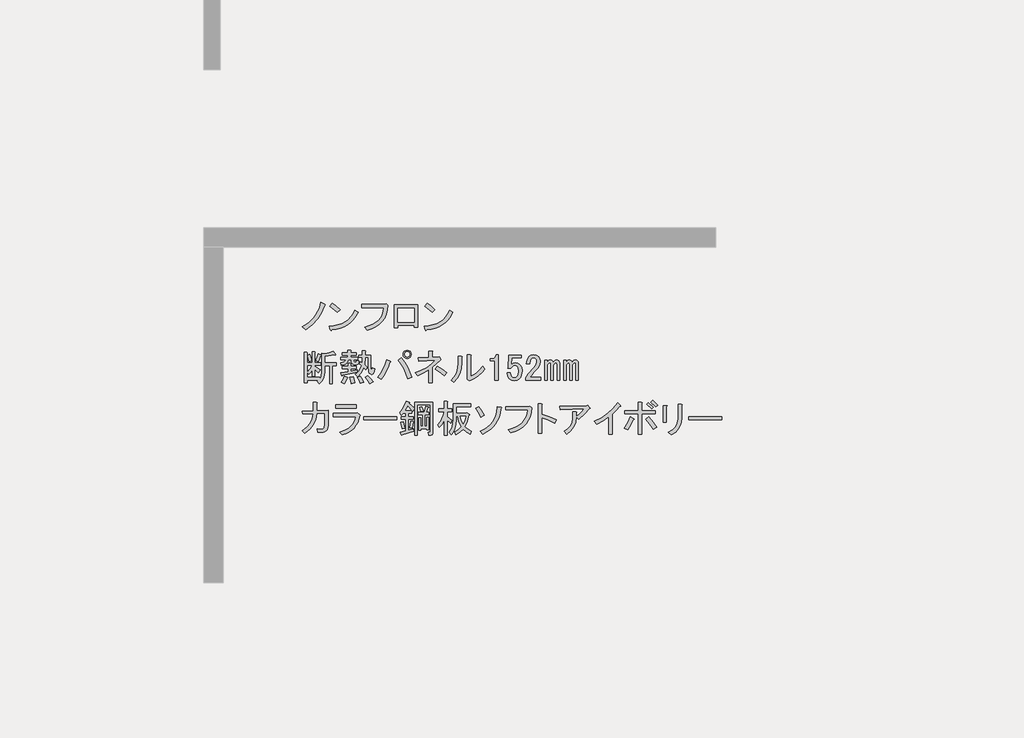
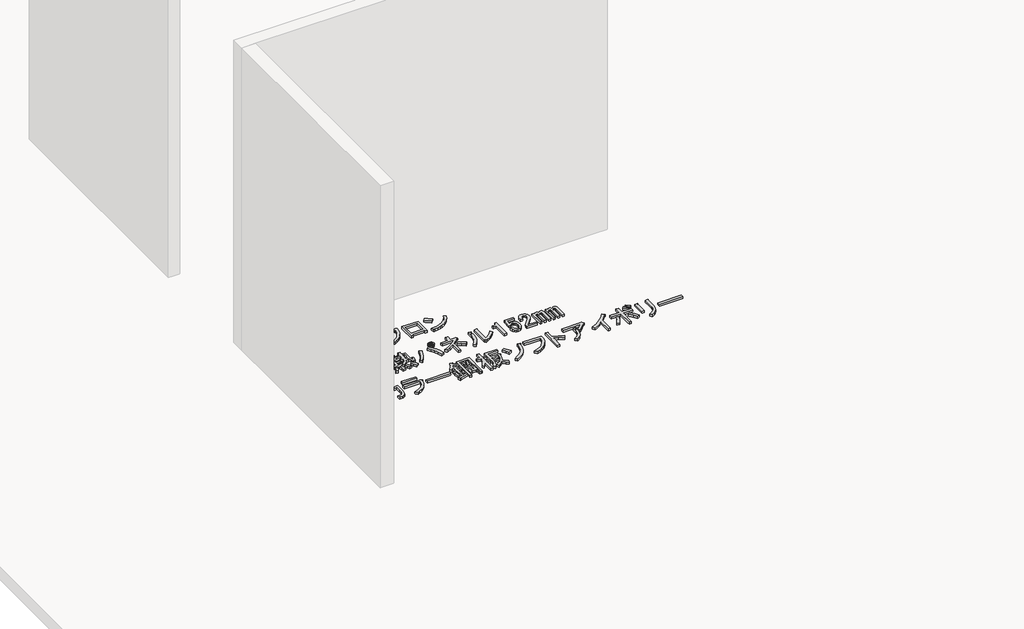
# One storey, part 13 of 117: 1 proxy.
"""IFC4 building model written with IfcOpenShell, lengths in millimetres."""

from ifc_helpers import new_model, si_unit, frame, origin, place, context, project, spatial, polyline, outline, extrude, element, save

model = new_model("IFC4")

# Units and contexts
model_context = context("Model", 3, world=origin())
ifc_project = project(units=[si_unit("LENGTHUNIT", "METRE", prefix="MILLI")], contexts=[model_context])

# Site, building, storey
site = spatial("IfcSite", under=ifc_project)
building = spatial("IfcBuilding", under=site)
storey = spatial("IfcBuildingStorey", under=building, Name="レベル 1", Elevation=500.0)

# Proxy
placement = place(None, origin())
element("IfcBuildingElementProxy", 1, Name="200㎜\u3000MS Pゴシック", ObjectType="200㎜\u3000MS Pゴシック", at=placement, inside=storey, context=model_context, shape_type="SweptSolid", body=[
    extrude(outline(polyline([(-23056.3293015, -12607.0496882), (-23081.9047498, -12666.8215225), (-23110.353844, -12712.7998566), (-23152.0217093, -12758.2034615), (-23201.1610538, -12795.560858), (-23228.7480543, -12773.7211493), (-23181.0455327, -12743.2605029), (-23141.3892195, -12704.7536481), (-23124.0036619, -12680.8305462), (-23108.6296565, -12652.7406577), (-23095.2672031, -12620.4839827), (-23083.9163019, -12584.0605212), (-23052.8809264, -12597.8540214), (-23049.7199159, -12602.4518548), (-23056.3293015, -12607.0496882)])), frame((0.0, 0.0, 500.0), z_axis=(0.0, 0.0, 1.0), x_axis=(1.0, 0.0, 0.0)), (0.0, 0.0, 1.0), 25.0),
    extrude(outline(polyline([(-22956.6022948, -12662.2236891), (-23015.2246708, -12615.0958967), (-22995.6838788, -12590.9572713), (-22968.3842429, -12610.7854279), (-22934.7625862, -12640.3839804), (-22956.6022948, -12662.2236891)])), frame((0.0, 0.0, 500.0), z_axis=(0.0, 0.0, 1.0), x_axis=(1.0, 0.0, 0.0)), (0.0, 0.0, 1.0), 25.0),
    extrude(outline(polyline([(-22794.5286672, -12662.2236891), (-22811.052131, -12691.965924), (-22830.1618761, -12717.9724192), (-22851.8579025, -12740.2431748), (-22876.1402102, -12758.7781907), (-22903.0087992, -12773.577467), (-22932.4636694, -12784.6410036), (-22964.504821, -12791.9688006), (-22999.1322539, -12795.560858), (-23004.8795456, -12803.6070664), (-23010.6268374, -12797.8597747), (-23019.8225042, -12767.9738575), (-22983.9917321, -12765.2977748), (-22951.2142088, -12758.9937141), (-22921.4899342, -12749.0616756), (-22894.8189084, -12735.5016591), (-22871.2011313, -12718.3136646), (-22850.636603, -12697.4976923), (-22833.1253234, -12673.053742), (-22818.6672926, -12644.9818138), (-22794.5286672, -12662.2236891)])), frame((0.0, 0.0, 500.0), z_axis=(0.0, 0.0, 1.0), x_axis=(1.0, 0.0, 0.0)), (0.0, 0.0, 1.0), 25.0),
    extrude(outline(polyline([(-22743.7685864, -12777.1695243), (-22709.985287, -12767.4889298), (-22680.4765359, -12755.1142922), (-22655.242333, -12740.0456116), (-22634.2826783, -12722.282888), (-22617.597572, -12701.8261214), (-22605.1870138, -12678.6753118), (-22597.0510039, -12652.8304591), (-22593.1895423, -12624.2915635), (-22765.6082951, -12624.2915635), (-22765.6082951, -12599.0034798), (-22590.8906256, -12599.0034798), (-22574.7982086, -12595.5551047), (-22562.1541668, -12607.0496882), (-22565.674383, -12643.5449909), (-22573.9361149, -12676.5919185), (-22586.9393625, -12706.1904711), (-22604.6841258, -12732.3406486), (-22627.1704048, -12755.042451), (-22654.3981995, -12774.2958784), (-22686.3675099, -12790.1009308), (-22723.078336, -12802.4576081), (-22743.7685864, -12777.1695243)])), frame((0.0, 0.0, 500.0), z_axis=(0.0, 0.0, 1.0), x_axis=(1.0, 0.0, 0.0)), (0.0, 0.0, 1.0), 25.0),
    extrude(outline(polyline([(-22329.044013, -12776.020066), (-22355.4815551, -12776.020066), (-22355.4815551, -12763.3760241), (-22483.0714321, -12763.3760241), (-22483.0714321, -12781.7673577), (-22509.5089742, -12781.7673577), (-22509.5089742, -12602.4518548), (-22329.044013, -12602.4518548), (-22329.044013, -12776.020066)]), holes=[polyline([(-22483.0714321, -12627.7399386), (-22483.0714321, -12738.0879404), (-22355.4815551, -12738.0879404), (-22355.4815551, -12627.7399386), (-22483.0714321, -12627.7399386)])]), frame((0.0, 0.0, 500.0), z_axis=(0.0, 0.0, 1.0), x_axis=(1.0, 0.0, 0.0)), (0.0, 0.0, 1.0), 25.0),
    extrude(outline(polyline([(-22052.9900951, -12662.2236891), (-22069.5135589, -12691.965924), (-22088.623304, -12717.9724192), (-22110.3193304, -12740.2431748), (-22134.6016381, -12758.7781907), (-22161.4702271, -12773.577467), (-22190.9250974, -12784.6410036), (-22222.9662489, -12791.9688006), (-22257.5936818, -12795.560858), (-22263.3409736, -12803.6070664), (-22269.0882653, -12797.8597747), (-22278.2839321, -12767.9738575), (-22242.4531601, -12765.2977748), (-22209.6756367, -12758.9937141), (-22179.9513622, -12749.0616756), (-22153.2803363, -12735.5016591), (-22129.6625593, -12718.3136646), (-22109.0980309, -12697.4976923), (-22091.5867514, -12673.053742), (-22077.1287205, -12644.9818138), (-22052.9900951, -12662.2236891)])), frame((0.0, 0.0, 500.0), z_axis=(0.0, 0.0, 1.0), x_axis=(1.0, 0.0, 0.0)), (0.0, 0.0, 1.0), 25.0),
    extrude(outline(polyline([(-22215.0637228, -12662.2236891), (-22273.6860987, -12615.0958967), (-22254.1453067, -12590.9572713), (-22226.8456709, -12610.7854279), (-22193.2240141, -12640.3839804), (-22215.0637228, -12662.2236891)])), frame((0.0, 0.0, 500.0), z_axis=(0.0, 0.0, 1.0), x_axis=(1.0, 0.0, 0.0)), (0.0, 0.0, 1.0), 25.0),
    extrude(outline(polyline([(-23122.9978859, -13039.2345221), (-23105.7560106, -12986.3594379), (-23085.0657603, -12992.1067296), (-23083.3415727, -12995.2677401), (-23087.364677, -12997.8540214), (-23104.6065523, -13046.1312722), (-23122.9978859, -13039.2345221)])), frame((0.0, 0.0, 500.0), z_axis=(0.0, 0.0, 1.0), x_axis=(1.0, 0.0, 0.0)), (0.0, 0.0, 1.0), 25.0),
    extrude(outline(polyline([(-22968.9704667, -12990.9572713), (-22970.6946542, -12995.5551047), (-22978.1661335, -12993.256188), (-23055.1798431, -13005.9002299), (-23055.1798431, -13055.326939), (-22963.2231749, -13055.326939), (-22963.2231749, -13077.1666477), (-22994.2585505, -13077.1666477), (-22994.2585505, -13217.4005666), (-23017.2477175, -13217.4005666), (-23017.2477175, -13077.1666477), (-23055.1798431, -13077.1666477), (-23055.1798431, -13126.5933568), (-23057.7661244, -13154.3958807), (-23065.5249683, -13179.1810764), (-23078.4563747, -13200.948944), (-23096.5603438, -13219.6994833), (-23113.8022191, -13200.1586914), (-23103.4570939, -13190.9630245), (-23193.1148454, -13190.9630245), (-23193.1148454, -13212.8027332), (-23216.1040124, -13212.8027332), (-23216.1040124, -12973.715396), (-23194.2643037, -12973.715396), (-23189.3791057, -12976.0143127), (-23193.1148454, -12980.6121461), (-23193.1148454, -13056.4763974), (-23150.5848863, -13056.4763974), (-23150.5848863, -12969.1175626), (-23132.1935527, -12969.1175626), (-23127.3083547, -12971.4164793), (-23131.0440943, -12976.0143127), (-23131.0440943, -13056.4763974), (-23087.364677, -13056.4763974), (-23087.364677, -13074.867731), (-23131.0440943, -13074.867731), (-23131.0440943, -13084.0633978), (-23090.813052, -13110.5009399), (-23104.6065523, -13132.3406486), (-23131.0440943, -13105.9031065), (-23131.0440943, -13158.7781907), (-23150.5848863, -13158.7781907), (-23150.5848863, -13110.5009399), (-23163.8036574, -13130.3290965), (-23178.1718868, -13146.1341488), (-23190.8159287, -13127.7428152), (-23168.97622, -13103.6041898), (-23151.7343447, -13074.867731), (-23193.1148454, -13074.867731), (-23193.1148454, -13169.1233159), (-23095.4108854, -13169.1233159), (-23095.4108854, -13182.9168161), (-23082.479479, -13158.7781907), (-23078.1690102, -13125.4438985), (-23078.1690102, -12980.6121461), (-23056.3293015, -12986.3594379), (-23020.1213634, -12978.8879586), (-22989.660717, -12965.6691875), (-22968.9704667, -12990.9572713)])), frame((0.0, 0.0, 500.0), z_axis=(0.0, 0.0, 1.0), x_axis=(1.0, 0.0, 0.0)), (0.0, 0.0, 1.0), 25.0),
    extrude(outline(polyline([(-23177.0224284, -13047.2807305), (-23189.6664703, -12996.7045631), (-23170.1256783, -12989.8078129), (-23162.3668344, -13013.9464383), (-23157.4816364, -13040.3839804), (-23177.0224284, -13047.2807305)])), frame((0.0, 0.0, 500.0), z_axis=(0.0, 0.0, 1.0), x_axis=(1.0, 0.0, 0.0)), (0.0, 0.0, 1.0), 25.0),
    extrude(outline(polyline([(-22878.1632569, -13167.9738575), (-22874.7148818, -13172.8590555), (-22880.4621736, -13176.020066), (-22890.2325696, -13201.5955143), (-22901.1524239, -13220.8489417), (-22924.141591, -13209.3543582), (-22911.4975491, -13185.790462), (-22901.1524239, -13158.7781907), (-22878.1632569, -13167.9738575)])), frame((0.0, 0.0, 500.0), z_axis=(0.0, 0.0, 1.0), x_axis=(1.0, 0.0, 0.0)), (0.0, 0.0, 1.0), 25.0),
    extrude(outline(polyline([(-22833.3343812, -13163.3760241), (-22823.2766206, -13190.67566), (-22818.3914226, -13212.8027332), (-22847.1278814, -13218.550025), (-22849.7141627, -13196.9976809), (-22857.4730066, -13166.8243992), (-22833.3343812, -13163.3760241)])), frame((0.0, 0.0, 500.0), z_axis=(0.0, 0.0, 1.0), x_axis=(1.0, 0.0, 0.0)), (0.0, 0.0, 1.0), 25.0),
    extrude(outline(polyline([(-22718.388546, -13157.6287323), (-22693.6751914, -13178.8937119), (-22674.7091286, -13203.6070664), (-22701.1466707, -13218.550025), (-22720.4000981, -13188.9514724), (-22739.0787963, -13169.1233159), (-22718.388546, -13157.6287323)])), frame((0.0, 0.0, 500.0), z_axis=(0.0, 0.0, 1.0), x_axis=(1.0, 0.0, 0.0)), (0.0, 0.0, 1.0), 25.0),
    extrude(outline(polyline([(-22777.0109219, -13216.2511083), (-22785.344495, -13191.5377537), (-22798.8506306, -13170.2727742), (-22778.1603803, -13162.2265657), (-22761.2058696, -13183.7789098), (-22749.4239215, -13207.0554415), (-22777.0109219, -13216.2511083)])), frame((0.0, 0.0, 500.0), z_axis=(0.0, 0.0, 1.0), x_axis=(1.0, 0.0, 0.0)), (0.0, 0.0, 1.0), 25.0),
    extrude(outline(polyline([(-22916.0953825, -13153.0308989), (-22918.1069346, -13157.9160969), (-22921.8426743, -13156.479274), (-22927.589966, -13132.3406486), (-22872.4159651, -13124.2944401), (-22872.4159651, -13101.3052731), (-22916.0953825, -13101.3052731), (-22916.0953825, -13082.9139395), (-22872.4159651, -13082.9139395), (-22872.4159651, -13059.9247724), (-22854.0246315, -13059.9247724), (-22849.1394335, -13062.2236891), (-22852.8751732, -13066.8215225), (-22852.8751732, -13082.9139395), (-22808.0462974, -13082.9139395), (-22808.0462974, -13101.3052731), (-22852.8751732, -13101.3052731), (-22852.8751732, -13120.8460651), (-22802.2990057, -13111.6503983), (-22802.2990057, -13127.7428152), (-22916.0953825, -13153.0308989)])), frame((0.0, 0.0, 500.0), z_axis=(0.0, 0.0, 1.0), x_axis=(1.0, 0.0, 0.0)), (0.0, 0.0, 1.0), 25.0),
    extrude(outline(polyline([(-22845.978423, -13031.1883136), (-22871.2665068, -13031.1883136), (-22875.8643402, -13048.6457123), (-22886.2094654, -13061.9363245), (-22902.3018823, -13071.0601502), (-22924.141591, -13076.0171893), (-22928.7394244, -13056.4763974), (-22903.4513406, -13047.8554597), (-22895.9798614, -13040.5276627), (-22891.9567571, -13031.1883136), (-22927.589966, -13031.1883136), (-22927.589966, -13012.79698), (-22873.5654235, -13012.79698), (-22873.5654235, -12995.5551047), (-22917.2448409, -12995.5551047), (-22917.2448409, -12977.1637711), (-22873.5654235, -12977.1637711), (-22873.5654235, -12958.7724374), (-22851.7257148, -12958.7724374), (-22846.8405168, -12961.0713541), (-22850.5762564, -12965.6691875), (-22850.5762564, -12977.1637711), (-22808.0462974, -12977.1637711), (-22808.0462974, -12995.5551047), (-22850.5762564, -12995.5551047), (-22850.5762564, -13012.79698), (-22797.7011723, -13012.79698), (-22797.7011723, -13031.1883136), (-22826.4376311, -13031.1883136), (-22826.4376311, -13043.8323555), (-22825.0008081, -13049.0049181), (-22820.6903393, -13050.7291056), (-22810.3452141, -13050.7291056), (-22806.6094745, -13047.5680951), (-22806.8968391, -13038.0850637), (-22787.3560471, -13040.3839804), (-22790.229693, -13061.9363245), (-22795.5459378, -13067.3244106), (-22803.448464, -13069.1204392), (-22827.5870894, -13069.1204392), (-22841.3805896, -13064.2352412), (-22845.978423, -13049.5796472), (-22845.978423, -13031.1883136)])), frame((0.0, 0.0, 500.0), z_axis=(0.0, 0.0, 1.0), x_axis=(1.0, 0.0, 0.0)), (0.0, 0.0, 1.0), 25.0),
    extrude(outline(polyline([(-22714.9401709, -13013.9464383), (-22736.7798796, -13013.9464383), (-22741.377713, -13071.4193559), (-22721.836921, -13089.8106896), (-22732.1820462, -13111.6503983), (-22748.2744631, -13095.5579813), (-22767.5278905, -13133.2027424), (-22797.7011723, -13165.6749408), (-22814.9430475, -13144.9846905), (-22799.8564067, -13133.0590601), (-22786.7813179, -13117.9724192), (-22775.7177813, -13099.7247679), (-22766.6657967, -13078.316106), (-22783.907672, -13063.3731475), (-22775.8614636, -13046.1312722), (-22762.0679633, -13056.4763974), (-22759.7690466, -13013.9464383), (-22787.3560471, -13013.9464383), (-22787.3560471, -12995.5551047), (-22759.7690466, -12995.5551047), (-22759.7690466, -12961.0713541), (-22737.9293379, -12961.0713541), (-22733.04414, -12963.3702708), (-22736.7798796, -12967.9681043), (-22736.7798796, -12995.5551047), (-22695.3993789, -12995.5551047), (-22695.3993789, -13092.1096063), (-22691.9510039, -13116.2482317), (-22688.7181523, -13118.2597838), (-22685.9163475, -13115.0987733), (-22681.6058787, -13093.2590646), (-22662.0650867, -13100.1558147), (-22666.591079, -13126.9525626), (-22674.421764, -13142.9731384), (-22685.5571418, -13148.2175421), (-22699.9972123, -13142.6857738), (-22706.5347567, -13135.3579768), (-22711.2044313, -13123.719711), (-22714.9401709, -13087.5117729), (-22714.9401709, -13013.9464383)])), frame((0.0, 0.0, 500.0), z_axis=(0.0, 0.0, 1.0), x_axis=(1.0, 0.0, 0.0)), (0.0, 0.0, 1.0), 25.0),
    extrude(outline(polyline([(-22456.3120417, -13016.245355), (-22429.6589762, -13052.9561812), (-22407.1726971, -13090.6727833), (-22388.8532047, -13129.3951616), (-22374.7004987, -13169.1233159), (-22405.7358742, -13179.468441), (-22421.1817208, -13136.3637528), (-22438.7828018, -13097.856898), (-22458.5391173, -13063.9478766), (-22480.4506671, -13034.6366887), (-22456.3120417, -13016.245355)])), frame((0.0, 0.0, 500.0), z_axis=(0.0, 0.0, 1.0), x_axis=(1.0, 0.0, 0.0)), (0.0, 0.0, 1.0), 25.0),
    extrude(outline(polyline([(-22543.6708765, -13042.6828971), (-22539.6477722, -13048.1428243), (-22545.9697932, -13053.0280223), (-22557.8954236, -13088.4457078), (-22572.9820644, -13122.282888), (-22591.2297158, -13154.539563), (-22612.6383776, -13185.2157328), (-22639.0759197, -13167.9738575), (-22615.8712292, -13136.5074351), (-22596.8333252, -13103.0294606), (-22581.9622078, -13067.539934), (-22571.2578769, -13030.0388553), (-22543.6708765, -13042.6828971)])), frame((0.0, 0.0, 500.0), z_axis=(0.0, 0.0, 1.0), x_axis=(1.0, 0.0, 0.0)), (0.0, 0.0, 1.0), 25.0),
    extrude(outline(polyline([(-22410.3337076, -13021.9926468), (-22422.9777495, -13019.6937301), (-22433.3228747, -13012.79698), (-22440.2196248, -13002.4518548), (-22442.5185415, -12989.8078129), (-22440.2196248, -12977.1637711), (-22433.3228747, -12966.8186459), (-22422.9777495, -12959.9218958), (-22410.3337076, -12957.6229791), (-22397.6896657, -12959.9218958), (-22387.3445406, -12966.8186459), (-22380.4477905, -12977.1637711), (-22378.1488738, -12989.8078129), (-22380.4477905, -13002.4518548), (-22387.3445406, -13012.79698), (-22397.6896657, -13019.6937301), (-22410.3337076, -13021.9926468)]), holes=[polyline([(-22410.3337076, -13010.4980633), (-22402.0001346, -13009.0612403), (-22395.390749, -13004.7507715), (-22391.0802802, -12998.141386), (-22389.6434573, -12989.8078129), (-22391.0802802, -12981.4742399), (-22395.390749, -12974.8648544), (-22402.0001346, -12970.5543855), (-22410.3337076, -12969.1175626), (-22418.6672807, -12970.5543855), (-22425.2766662, -12974.8648544), (-22429.587135, -12981.4742399), (-22431.023958, -12989.8078129), (-22429.587135, -12998.141386), (-22425.2766662, -13004.7507715), (-22418.6672807, -13009.0612403), (-22410.3337076, -13010.4980633)])]), frame((0.0, 0.0, 500.0), z_axis=(0.0, 0.0, 1.0), x_axis=(1.0, 0.0, 0.0)), (0.0, 0.0, 1.0), 25.0),
    extrude(outline(polyline([(-22120.6702029, -13155.3298156), (-22157.7402348, -13126.0186277), (-22190.7871624, -13104.7536481), (-22173.5452871, -13082.9139395), (-22134.7510677, -13106.1904711), (-22101.1294109, -13132.3406486), (-22120.6702029, -13155.3298156)])), frame((0.0, 0.0, 500.0), z_axis=(0.0, 0.0, 1.0), x_axis=(1.0, 0.0, 0.0)), (0.0, 0.0, 1.0), 25.0),
    extrude(outline(polyline([(-22166.648537, -13011.6475216), (-22159.7517869, -13009.3486049), (-22147.107745, -13026.5904802), (-22145.9582866, -13032.6251366), (-22151.7055784, -13034.6366887), (-22214.9257878, -13090.9601479), (-22214.9257878, -13211.6532749), (-22241.3633299, -13211.6532749), (-22241.3633299, -13109.3514816), (-22281.5943722, -13133.4901069), (-22326.4232479, -13155.3298156), (-22345.9640399, -13134.6395653), (-22300.4167527, -13115.1706145), (-22259.1799343, -13092.3969709), (-22222.2535848, -13066.3186345), (-22189.637704, -13036.9356054), (-22319.5264978, -13042.6828971), (-22322.9748729, -13017.3948134), (-22241.3633299, -13015.0958967), (-22241.3633299, -12963.3702708), (-22218.3741628, -12963.3702708), (-22212.3395065, -12966.8186459), (-22214.9257878, -12972.5659377), (-22214.9257878, -13013.9464383), (-22166.648537, -13011.6475216)])), frame((0.0, 0.0, 500.0), z_axis=(0.0, 0.0, 1.0), x_axis=(1.0, 0.0, 0.0)), (0.0, 0.0, 1.0), 25.0),
    extrude(outline(polyline([(-22067.703162, -13193.2619413), (-22042.5587606, -13164.0225944), (-22024.5984738, -13131.4785548), (-22013.8223018, -13095.6298225), (-22010.2302444, -13056.4763974), (-22010.2302444, -13004.7507715), (-21986.091619, -13004.7507715), (-21980.3443273, -13008.1991466), (-21983.7927023, -13013.9464383), (-21983.7927023, -13055.326939), (-21987.6002831, -13101.0897496), (-21999.0230255, -13141.82368), (-22018.0609295, -13177.5287301), (-22044.713995, -13208.2048998), (-22067.703162, -13193.2619413)])), frame((0.0, 0.0, 500.0), z_axis=(0.0, 0.0, 1.0), x_axis=(1.0, 0.0, 0.0)), (0.0, 0.0, 1.0), 25.0),
    extrude(outline(polyline([(-21913.6757429, -13162.2265657), (-21888.8905471, -13150.0135708), (-21865.1111275, -13132.9153778), (-21842.3374839, -13110.9319868), (-21820.5696163, -13084.0633978), (-21804.4771994, -13105.9031065), (-21827.753731, -13133.7056304), (-21853.9039086, -13157.3413678), (-21882.9277319, -13176.8103186), (-21914.8252012, -13192.1124829), (-21924.020868, -13196.7103163), (-21942.4122017, -13182.9168161), (-21940.113285, -13177.1695243), (-21940.113285, -12992.1067296), (-21915.9746596, -12992.1067296), (-21910.2273678, -12995.5551047), (-21913.6757429, -13001.3023965), (-21913.6757429, -13162.2265657)])), frame((0.0, 0.0, 500.0), z_axis=(0.0, 0.0, 1.0), x_axis=(1.0, 0.0, 0.0)), (0.0, 0.0, 1.0), 25.0),
    extrude(outline(polyline([(-21725.1645731, -13015.0958967), (-21717.1183647, -13004.1760423), (-21713.6699896, -12992.1067296), (-21699.8764894, -12992.1067296), (-21699.8764894, -13190.9630245), (-21726.3140315, -13190.9630245), (-21726.3140315, -13038.0850637), (-21760.797782, -13038.0850637), (-21760.797782, -13024.2915635), (-21750.4526569, -13024.2915635), (-21736.0844275, -13021.9926468), (-21725.1645731, -13015.0958967)])), frame((0.0, 0.0, 500.0), z_axis=(0.0, 0.0, 1.0), x_axis=(1.0, 0.0, 0.0)), (0.0, 0.0, 1.0), 25.0),
    extrude(outline(polyline([(-21615.9660297, -12995.5551047), (-21517.1126114, -12995.5551047), (-21517.1126114, -13017.3948134), (-21594.126321, -13017.3948134), (-21594.126321, -13020.8431884), (-21597.5746961, -13063.3731475), (-21598.7241544, -13070.2698976), (-21583.2064667, -13059.9247724), (-21566.5393205, -13056.4763974), (-21545.5617056, -13060.212137), (-21528.6071949, -13071.4193559), (-21516.5378822, -13091.2475125), (-21512.514778, -13118.5471484), (-21517.6873406, -13153.0308989), (-21524.1530438, -13166.8243992), (-21533.2050283, -13178.3189827), (-21551.3089974, -13190.3882954), (-21573.4360707, -13194.4113996), (-21594.4136856, -13190.67566), (-21611.3681963, -13179.468441), (-21623.437509, -13160.7897428), (-21629.7595299, -13134.6395653), (-21603.3219878, -13134.6395653), (-21599.2988836, -13153.3182635), (-21591.8274043, -13165.6749408), (-21584.0685604, -13170.8475034), (-21574.585529, -13172.5716909), (-21562.2288517, -13170.5601388), (-21552.7458203, -13164.5254825), (-21543.2627889, -13147.5709718), (-21540.1017785, -13121.9955234), (-21542.6880597, -13097.856898), (-21550.4469036, -13082.9139395), (-21557.9183829, -13077.7413769), (-21566.5393205, -13076.0171893), (-21579.470727, -13078.6034706), (-21590.6779459, -13086.3623145), (-21599.8736128, -13096.7074397), (-21622.8627798, -13096.7074397), (-21621.7133214, -13088.6612312), (-21615.9660297, -13000.1529381), (-21615.9660297, -12995.5551047)])), frame((0.0, 0.0, 500.0), z_axis=(0.0, 0.0, 1.0), x_axis=(1.0, 0.0, 0.0)), (0.0, 0.0, 1.0), 25.0),
    extrude(outline(polyline([(-21478.0310274, -13062.2236891), (-21473.433194, -13030.900949), (-21459.6396938, -13008.1991466), (-21443.2599123, -12996.9919276), (-21424.0064849, -12993.256188), (-21401.3046824, -12996.9919276), (-21383.7754426, -13008.1991466), (-21372.5682236, -13024.8662927), (-21368.832484, -13044.9818138), (-21373.1429528, -13070.8446268), (-21386.0743593, -13093.2590646), (-21419.4086515, -13131.1911902), (-21437.7999851, -13151.8814406), (-21451.5934853, -13170.2727742), (-21365.3841089, -13170.2727742), (-21365.3841089, -13192.1124829), (-21482.6288608, -13192.1124829), (-21482.6288608, -13172.5716909), (-21476.5942045, -13158.7781907), (-21463.0880689, -13140.3868571), (-21415.9602764, -13088.6612312), (-21401.3046824, -13067.3962517), (-21396.4194844, -13044.9818138), (-21398.7184011, -13032.337772), (-21405.6151513, -13021.9926468), (-21413.3739951, -13016.8200842), (-21422.8570265, -13015.0958967), (-21431.4779642, -13016.8200842), (-21438.9494435, -13021.9926468), (-21448.4324749, -13038.3724283), (-21451.5934853, -13062.2236891), (-21478.0310274, -13062.2236891)])), frame((0.0, 0.0, 500.0), z_axis=(0.0, 0.0, 1.0), x_axis=(1.0, 0.0, 0.0)), (0.0, 0.0, 1.0), 25.0),
    extrude(outline(polyline([(-21094.1119379, -13032.337772), (-21085.7783648, -13033.7745949), (-21079.1689793, -13038.0850637), (-21073.9964167, -13046.7060014), (-21072.2722292, -13058.7753141), (-21072.2722292, -13193.2619413), (-21091.8130212, -13193.2619413), (-21091.8130212, -13069.1204392), (-21094.3993024, -13059.6374078), (-21102.1581463, -13056.4763974), (-21112.5032715, -13061.0742308), (-21118.5379278, -13069.6951684), (-21120.54948, -13079.4655644), (-21120.54948, -13193.2619413), (-21140.0902719, -13193.2619413), (-21140.0902719, -13069.1204392), (-21142.6765532, -13059.6374078), (-21150.4353971, -13056.4763974), (-21160.7805223, -13061.0742308), (-21166.8151786, -13069.6951684), (-21168.8267307, -13079.4655644), (-21168.8267307, -13193.2619413), (-21188.3675227, -13193.2619413), (-21188.3675227, -13035.786147), (-21168.8267307, -13035.786147), (-21168.8267307, -13053.0280223), (-21156.757418, -13037.5103346), (-21143.538647, -13032.337772), (-21134.3429802, -13033.7745949), (-21127.4462301, -13038.0850637), (-21120.54948, -13051.878564), (-21107.6180735, -13037.22297), (-21094.1119379, -13032.337772)])), frame((0.0, 0.0, 500.0), z_axis=(0.0, 0.0, 1.0), x_axis=(1.0, 0.0, 0.0)), (0.0, 0.0, 1.0), 25.0),
    extrude(outline(polyline([(-21315.9573998, -13193.2619413), (-21335.4981918, -13193.2619413), (-21335.4981918, -13035.786147), (-21315.9573998, -13035.786147), (-21315.9573998, -13053.0280223), (-21303.8880871, -13037.5103346), (-21290.6693161, -13032.337772), (-21281.4736492, -13033.7745949), (-21274.5768991, -13038.0850637), (-21267.680149, -13051.878564), (-21254.7487426, -13037.22297), (-21241.2426069, -13032.337772), (-21232.9090339, -13033.7745949), (-21226.2996483, -13038.0850637), (-21221.1270858, -13046.7060014), (-21219.4028982, -13058.7753141), (-21219.4028982, -13193.2619413), (-21238.9436902, -13193.2619413), (-21238.9436902, -13069.1204392), (-21241.5299715, -13059.6374078), (-21249.2888154, -13056.4763974), (-21259.6339406, -13061.0742308), (-21265.6685969, -13069.6951684), (-21267.680149, -13079.4655644), (-21267.680149, -13193.2619413), (-21287.220941, -13193.2619413), (-21287.220941, -13069.1204392), (-21289.8072223, -13059.6374078), (-21297.5660662, -13056.4763974), (-21307.9111913, -13061.0742308), (-21313.9458477, -13069.6951684), (-21315.9573998, -13079.4655644), (-21315.9573998, -13193.2619413)])), frame((0.0, 0.0, 500.0), z_axis=(0.0, 0.0, 1.0), x_axis=(1.0, 0.0, 0.0)), (0.0, 0.0, 1.0), 25.0),
    extrude(outline(polyline([(-23052.8809264, -13450.7291056), (-23118.4000525, -13453.0280223), (-23126.6617844, -13499.293721), (-23144.55023, -13540.3868571), (-23172.0653893, -13576.3074306), (-23209.2072623, -13607.0554415), (-23228.7480543, -13587.5146495), (-23193.7614157, -13559.2810787), (-23168.1141262, -13527.4554506), (-23151.8061858, -13492.0377651), (-23144.8375946, -13453.0280223), (-23226.4491376, -13455.326939), (-23228.7480543, -13432.337772), (-23143.6881362, -13430.0388553), (-23143.6881362, -13365.6691875), (-23119.5495108, -13365.6691875), (-23112.6527607, -13369.1175626), (-23117.2505941, -13374.8648544), (-23117.2505941, -13430.0388553), (-23026.4433843, -13426.5904802), (-23026.4433843, -13497.856898), (-23029.0296656, -13545.8467842), (-23036.7885095, -13577.1695243), (-23043.397895, -13587.2272849), (-23052.8809264, -13594.4113996), (-23065.2376037, -13598.7218684), (-23080.4679269, -13600.1586914), (-23108.0549273, -13600.1586914), (-23111.5033024, -13571.4222326), (-23081.6173852, -13573.7211493), (-23067.5365204, -13570.8475034), (-23059.7776765, -13562.2265657), (-23054.6051139, -13536.938482), (-23052.8809264, -13497.856898), (-23052.8809264, -13450.7291056)])), frame((0.0, 0.0, 500.0), z_axis=(0.0, 0.0, 1.0), x_axis=(1.0, 0.0, 0.0)), (0.0, 0.0, 1.0), 25.0),
    extrude(outline(polyline([(-22938.0270479, -13596.7103163), (-22888.3848153, -13578.3908238), (-22868.1435721, -13566.2676303), (-22850.9555777, -13552.1688052), (-22836.820832, -13536.0943485), (-22825.7393351, -13518.0442603), (-22817.7110869, -13498.0185406), (-22812.7360875, -13476.0171893), (-22987.453757, -13476.0171893), (-22987.453757, -13450.7291056), (-22811.5866291, -13450.7291056), (-22801.241504, -13447.2807305), (-22780.5512536, -13459.9247724), (-22777.6776078, -13465.3846996), (-22782.8501703, -13470.2698976), (-22788.9746281, -13497.7491363), (-22798.1523347, -13522.7139349), (-22810.3832899, -13545.1642933), (-22825.667494, -13565.1002116), (-22844.0049467, -13582.5216898), (-22865.3956483, -13597.4287278), (-22889.8395985, -13609.8213256), (-22917.3367975, -13619.6994833), (-22938.0270479, -13596.7103163)])), frame((0.0, 0.0, 500.0), z_axis=(0.0, 0.0, 1.0), x_axis=(1.0, 0.0, 0.0)), (0.0, 0.0, 1.0), 25.0),
    extrude(outline(polyline([(-22808.1382541, -13410.4980633), (-22966.7635067, -13410.4980633), (-22966.7635067, -13385.2099795), (-22808.1382541, -13385.2099795), (-22808.1382541, -13410.4980633)])), frame((0.0, 0.0, 500.0), z_axis=(0.0, 0.0, 1.0), x_axis=(1.0, 0.0, 0.0)), (0.0, 0.0, 1.0), 25.0),
    extrude(outline(polyline([(-22749.1020731, -13501.3052731), (-22749.1020731, -13476.0171893), (-22492.7728606, -13476.0171893), (-22492.7728606, -13501.3052731), (-22749.1020731, -13501.3052731)])), frame((0.0, 0.0, 500.0), z_axis=(0.0, 0.0, 1.0), x_axis=(1.0, 0.0, 0.0)), (0.0, 0.0, 1.0), 25.0),
    extrude(outline(polyline([(-22297.6408108, -13397.8540214), (-22290.4566961, -13413.0843446), (-22284.9967689, -13433.4872303), (-22302.2386442, -13439.2345221), (-22313.7332277, -13402.4518548), (-22297.6408108, -13397.8540214)])), frame((0.0, 0.0, 500.0), z_axis=(0.0, 0.0, 1.0), x_axis=(1.0, 0.0, 0.0)), (0.0, 0.0, 1.0), 25.0),
    extrude(outline(polyline([(-22244.7657266, -13399.0034798), (-22242.1794453, -13402.4518548), (-22248.2141016, -13405.9002299), (-22260.8581435, -13443.8323555), (-22240.1678932, -13443.8323555), (-22240.1678932, -13462.2236891), (-22271.2032687, -13462.2236891), (-22271.2032687, -13550.7319822), (-22256.2603101, -13550.7319822), (-22256.2603101, -13482.9139395), (-22240.1678932, -13482.9139395), (-22240.1678932, -13577.1695243), (-22256.2603101, -13577.1695243), (-22256.2603101, -13569.1233159), (-22302.2386442, -13569.1233159), (-22302.2386442, -13581.7673577), (-22318.3310611, -13581.7673577), (-22318.3310611, -13485.2128562), (-22302.2386442, -13485.2128562), (-22302.2386442, -13550.7319822), (-22287.2956856, -13550.7319822), (-22287.2956856, -13462.2236891), (-22322.9288945, -13462.2236891), (-22322.9288945, -13443.8323555), (-22276.9505604, -13443.8323555), (-22266.6054353, -13394.4056463), (-22244.7657266, -13399.0034798)])), frame((0.0, 0.0, 500.0), z_axis=(0.0, 0.0, 1.0), x_axis=(1.0, 0.0, 0.0)), (0.0, 0.0, 1.0), 25.0),
    extrude(outline(polyline([(-22350.515895, -13365.6691875), (-22210.281976, -13365.6691875), (-22210.281976, -13605.9059831), (-22214.0177157, -13617.1132021), (-22225.2249346, -13620.8489417), (-22241.3173515, -13620.8489417), (-22245.9151849, -13599.009233), (-22234.4206014, -13599.009233), (-22230.9722264, -13597.8597747), (-22229.822768, -13594.4113996), (-22229.822768, -13384.0605212), (-22330.975103, -13384.0605212), (-22330.975103, -13623.1478584), (-22350.515895, -13623.1478584), (-22350.515895, -13365.6691875)])), frame((0.0, 0.0, 500.0), z_axis=(0.0, 0.0, 1.0), x_axis=(1.0, 0.0, 0.0)), (0.0, 0.0, 1.0), 25.0),
    extrude(outline(polyline([(-22362.0104785, -13513.949315), (-22359.4241972, -13517.1103254), (-22363.1599368, -13519.6966067), (-22371.2061453, -13566.8243992), (-22389.5974789, -13564.5254825), (-22383.8501872, -13510.5009399), (-22362.0104785, -13513.949315)])), frame((0.0, 0.0, 500.0), z_axis=(0.0, 0.0, 1.0), x_axis=(1.0, 0.0, 0.0)), (0.0, 0.0, 1.0), 25.0),
    extrude(outline(polyline([(-22439.0241881, -13515.0987733), (-22427.5296046, -13566.8243992), (-22448.2198549, -13572.5716909), (-22459.7144384, -13520.8460651), (-22439.0241881, -13515.0987733)])), frame((0.0, 0.0, 500.0), z_axis=(0.0, 0.0, 1.0), x_axis=(1.0, 0.0, 0.0)), (0.0, 0.0, 1.0), 25.0),
    extrude(outline(polyline([(-22365.4588536, -13434.6366887), (-22406.8393542, -13390.9572713), (-22428.6790629, -13430.0388553), (-22373.505062, -13430.0388553), (-22373.505062, -13448.4301889), (-22399.9426041, -13448.4301889), (-22399.9426041, -13477.1666477), (-22362.0104785, -13477.1666477), (-22362.0104785, -13495.5579813), (-22399.9426041, -13495.5579813), (-22399.9426041, -13582.9168161), (-22360.8610201, -13572.5716909), (-22358.5621034, -13592.1124829), (-22450.5187716, -13617.4005666), (-22452.8176883, -13623.1478584), (-22457.4155217, -13619.6994833), (-22464.3122718, -13596.7103163), (-22419.4833961, -13587.5146495), (-22419.4833961, -13495.5579813), (-22457.4155217, -13495.5579813), (-22457.4155217, -13477.1666477), (-22419.4833961, -13477.1666477), (-22419.4833961, -13448.4301889), (-22441.3231048, -13448.4301889), (-22456.2660634, -13466.8215225), (-22468.9101052, -13446.1312722), (-22440.7483756, -13408.4865112), (-22416.035021, -13357.6229791), (-22394.1953124, -13363.3702708), (-22390.7469373, -13367.1060105), (-22396.4942291, -13369.1175626), (-22397.6436874, -13372.5659377), (-22352.8148117, -13410.4980633), (-22365.4588536, -13434.6366887)])), frame((0.0, 0.0, 500.0), z_axis=(0.0, 0.0, 1.0), x_axis=(1.0, 0.0, 0.0)), (0.0, 0.0, 1.0), 25.0),
    extrude(outline(polyline([(-22121.7736829, -13623.1478584), (-22121.7736829, -13503.6041898), (-22139.5902874, -13537.8005758), (-22158.5563502, -13559.927649), (-22170.0509337, -13539.2373987), (-22152.8090584, -13516.5355963), (-22139.0155582, -13492.1096063), (-22128.670433, -13465.9594288), (-22121.7736829, -13438.0850637), (-22163.1541836, -13438.0850637), (-22163.1541836, -13416.245355), (-22121.7736829, -13416.245355), (-22121.7736829, -13356.4735207), (-22099.9339742, -13356.4735207), (-22095.0487762, -13358.7724374), (-22098.7845159, -13363.3702708), (-22098.7845159, -13416.245355), (-22060.8523903, -13416.245355), (-22060.8523903, -13438.0850637), (-22098.7845159, -13438.0850637), (-22098.7845159, -13478.316106), (-22060.8523903, -13504.7536481), (-22071.1975154, -13527.7428152), (-22098.7845159, -13504.7536481), (-22098.7845159, -13623.1478584), (-22121.7736829, -13623.1478584)])), frame((0.0, 0.0, 500.0), z_axis=(0.0, 0.0, 1.0), x_axis=(1.0, 0.0, 0.0)), (0.0, 0.0, 1.0), 25.0),
    extrude(outline(polyline([(-22039.0126816, -13594.4113996), (-22010.2762228, -13577.1695243), (-21988.4365141, -13555.3298156), (-22006.2531185, -13513.3745858), (-22016.0235145, -13472.5688143), (-22028.6675564, -13472.5688143), (-22028.6675564, -13496.7074397), (-22031.1101554, -13538.4471461), (-22038.4379524, -13572.8590555), (-22050.6509474, -13599.9431679), (-22067.7491404, -13619.6994833), (-22081.5426406, -13596.7103163), (-22068.4675518, -13579.3247587), (-22059.1282027, -13557.0540032), (-22053.5245933, -13529.8980496), (-22051.6567234, -13497.856898), (-22051.6567234, -13377.1637711), (-21914.8711796, -13377.1637711), (-21914.8711796, -13399.0034798), (-22028.6675564, -13399.0034798), (-22028.6675564, -13450.7291056), (-21949.3549301, -13450.7291056), (-21943.6076384, -13444.9818138), (-21924.0668464, -13458.7753141), (-21922.6300234, -13462.5110537), (-21927.5152214, -13466.8215225), (-21939.8718987, -13513.3745858), (-21958.5505969, -13554.1803573), (-21939.5845341, -13572.5716909), (-21907.9744294, -13590.9630245), (-21917.1700963, -13615.1016499), (-21945.0444613, -13599.009233), (-21973.4935555, -13573.7211493), (-21997.9195455, -13598.1471392), (-22029.8170148, -13618.550025), (-22039.0126816, -13594.4113996)]), holes=[polyline([(-21994.1838058, -13472.5688143), (-21986.1375974, -13505.6157419), (-21973.4935555, -13533.4901069), (-21960.8495136, -13507.3399294), (-21952.8033052, -13472.5688143), (-21994.1838058, -13472.5688143)])]), frame((0.0, 0.0, 500.0), z_axis=(0.0, 0.0, 1.0), x_axis=(1.0, 0.0, 0.0)), (0.0, 0.0, 1.0), 25.0),
    extrude(outline(polyline([(-21741.3029684, -13517.39769), (-21729.1618145, -13496.5637574), (-21719.1758951, -13469.6951684), (-21711.3452101, -13436.7919231), (-21705.6697595, -13397.8540214), (-21676.9333007, -13402.4518548), (-21672.0481027, -13406.1875945), (-21678.082759, -13412.79698), (-21683.3271628, -13448.1428243), (-21692.1636238, -13480.6150228), (-21704.5921423, -13510.2135753), (-21720.6127181, -13536.938482), (-21736.705135, -13555.9045448), (-21758.5448437, -13574.8706076), (-21819.4661363, -13612.8027332), (-21840.1563867, -13592.1124829), (-21809.4083758, -13576.2355894), (-21782.6834691, -13558.4908261), (-21759.9816666, -13538.878193), (-21741.3029684, -13517.39769)])), frame((0.0, 0.0, 500.0), z_axis=(0.0, 0.0, 1.0), x_axis=(1.0, 0.0, 0.0)), (0.0, 0.0, 1.0), 25.0),
    extrude(outline(polyline([(-21835.5585533, -13479.4655644), (-21855.961439, -13440.0966158), (-21875.7895956, -13411.6475216), (-21850.5015118, -13397.8540214), (-21830.3859907, -13426.5904802), (-21809.1210112, -13464.5226058), (-21835.5585533, -13479.4655644)])), frame((0.0, 0.0, 500.0), z_axis=(0.0, 0.0, 1.0), x_axis=(1.0, 0.0, 0.0)), (0.0, 0.0, 1.0), 25.0),
    extrude(outline(polyline([(-21619.6902747, -13577.1695243), (-21585.9069754, -13567.4889298), (-21556.3982242, -13555.1142922), (-21531.1640214, -13540.0456116), (-21510.2043667, -13522.282888), (-21493.5192603, -13501.8261214), (-21481.1087022, -13478.6753118), (-21472.9726923, -13452.8304591), (-21469.1112306, -13424.2915635), (-21641.5299834, -13424.2915635), (-21641.5299834, -13399.0034798), (-21466.8123139, -13399.0034798), (-21450.719897, -13395.5551047), (-21438.0758551, -13407.0496882), (-21441.5960713, -13443.5449909), (-21449.8578032, -13476.5919185), (-21462.8610508, -13506.1904711), (-21480.6058141, -13532.3406486), (-21503.0920932, -13555.042451), (-21530.3198879, -13574.2958784), (-21562.2891983, -13590.1009308), (-21599.0000244, -13602.4576081), (-21619.6902747, -13577.1695243)])), frame((0.0, 0.0, 500.0), z_axis=(0.0, 0.0, 1.0), x_axis=(1.0, 0.0, 0.0)), (0.0, 0.0, 1.0), 25.0),
    extrude(outline(polyline([(-21357.8436622, -13457.6258557), (-21301.2328383, -13476.5919185), (-21244.0472853, -13501.3052731), (-21257.8407855, -13527.7428152), (-21313.302151, -13501.8800023), (-21357.8436622, -13486.3623145), (-21357.8436622, -13605.9059831), (-21384.2812042, -13605.9059831), (-21384.2812042, -13376.0143127), (-21361.2920372, -13376.0143127), (-21353.5331933, -13378.8879586), (-21357.8436622, -13385.2099795), (-21357.8436622, -13457.6258557)])), frame((0.0, 0.0, 500.0), z_axis=(0.0, 0.0, 1.0), x_axis=(1.0, 0.0, 0.0)), (0.0, 0.0, 1.0), 25.0),
    extrude(outline(polyline([(-21089.5600828, -13478.316106), (-21093.3676636, -13519.5529244), (-21107.0893227, -13555.9045448), (-21130.72506, -13587.3709672), (-21164.2748757, -13613.9521916), (-21183.8156677, -13592.1124829), (-21154.1452739, -13571.8532794), (-21132.9521356, -13547.8583363), (-21120.2362526, -13520.1276536), (-21115.9976249, -13488.6612312), (-21115.9976249, -13439.2345221), (-21091.8589995, -13439.2345221), (-21086.1117077, -13441.8208034), (-21089.5600828, -13447.2807305), (-21089.5600828, -13477.1666477), (-21053.0647801, -13446.4186368), (-21026.3398734, -13416.245355), (-21213.7015848, -13423.1421052), (-21216.0005015, -13396.7045631), (-21006.7990814, -13390.9572713), (-20998.752873, -13388.6583546), (-20981.5109977, -13409.3486049), (-20981.2236331, -13412.5096154), (-20987.2582895, -13412.79698), (-21025.1904151, -13456.1890328), (-21070.0192908, -13496.7074397), (-21089.5600828, -13478.316106)])), frame((0.0, 0.0, 500.0), z_axis=(0.0, 0.0, 1.0), x_axis=(1.0, 0.0, 0.0)), (0.0, 0.0, 1.0), 25.0),
    extrude(outline(polyline([(-20947.7169221, -13511.6503983), (-20891.0342572, -13483.7760332), (-20841.6793892, -13450.7291056), (-20799.6523182, -13412.5096154), (-20764.9530442, -13369.1175626), (-20743.1133355, -13387.5088962), (-20740.5270542, -13393.5435526), (-20751.1595439, -13397.8540214), (-20776.1602631, -13426.8778448), (-20807.4830032, -13456.4763974), (-20807.4830032, -13612.8027332), (-20833.9205453, -13612.8027332), (-20833.9205453, -13478.316106), (-20877.5999627, -13507.9146586), (-20928.1761302, -13534.6395653), (-20947.7169221, -13511.6503983)])), frame((0.0, 0.0, 500.0), z_axis=(0.0, 0.0, 1.0), x_axis=(1.0, 0.0, 0.0)), (0.0, 0.0, 1.0), 25.0),
    extrude(outline(polyline([(-20523.6587469, -13478.316106), (-20487.4508088, -13520.2713359), (-20461.5879959, -13558.7781907), (-20486.8760796, -13576.020066), (-20513.6009863, -13534.9269299), (-20545.4984556, -13496.7074397), (-20523.6587469, -13478.316106)])), frame((0.0, 0.0, 500.0), z_axis=(0.0, 0.0, 1.0), x_axis=(1.0, 0.0, 0.0)), (0.0, 0.0, 1.0), 25.0),
    extrude(outline(polyline([(-20578.8327478, -13428.8893969), (-20473.0825794, -13428.8893969), (-20473.0825794, -13454.1774807), (-20578.8327478, -13454.1774807), (-20578.8327478, -13613.9521916), (-20605.2702899, -13613.9521916), (-20605.2702899, -13454.1774807), (-20708.7215416, -13454.1774807), (-20708.7215416, -13428.8893969), (-20605.2702899, -13428.8893969), (-20605.2702899, -13364.5197292), (-20581.1316645, -13364.5197292), (-20574.2349144, -13367.9681043), (-20578.8327478, -13373.715396), (-20578.8327478, -13428.8893969)])), frame((0.0, 0.0, 500.0), z_axis=(0.0, 0.0, 1.0), x_axis=(1.0, 0.0, 0.0)), (0.0, 0.0, 1.0), 25.0),
    extrude(outline(polyline([(-20639.7540405, -13492.1096063), (-20637.4551238, -13496.9948043), (-20644.3518739, -13500.1558147), (-20663.8926659, -13538.9500341), (-20688.0312912, -13579.468441), (-20713.319375, -13565.6749408), (-20686.8818329, -13523.1449818), (-20665.0421242, -13478.316106), (-20639.7540405, -13492.1096063)])), frame((0.0, 0.0, 500.0), z_axis=(0.0, 0.0, 1.0), x_axis=(1.0, 0.0, 0.0)), (0.0, 0.0, 1.0), 25.0),
    extrude(outline(polyline([(-20500.6695799, -13416.245355), (-20538.6017055, -13380.6121461), (-20524.8082053, -13366.8186459), (-20486.8760796, -13401.3023965), (-20500.6695799, -13416.245355)])), frame((0.0, 0.0, 500.0), z_axis=(0.0, 0.0, 1.0), x_axis=(1.0, 0.0, 0.0)), (0.0, 0.0, 1.0), 25.0),
    extrude(outline(polyline([(-20468.484746, -13400.1529381), (-20506.4168716, -13362.2208125), (-20491.473913, -13349.5767706), (-20453.5417874, -13386.3594379), (-20468.484746, -13400.1529381)])), frame((0.0, 0.0, 500.0), z_axis=(0.0, 0.0, 1.0), x_axis=(1.0, 0.0, 0.0)), (0.0, 0.0, 1.0), 25.0),
    extrude(outline(polyline([(-20265.9501844, -13494.408523), (-20270.9790647, -13534.495883), (-20286.0657055, -13568.5485867), (-20311.210107, -13596.566634), (-20346.412269, -13618.550025), (-20369.4014361, -13599.009233), (-20336.138985, -13579.468441), (-20312.215883, -13555.3298156), (-20297.6321302, -13526.5933568), (-20292.3877265, -13493.2590646), (-20292.3877265, -13378.3132294), (-20268.2491011, -13378.3132294), (-20261.9270801, -13381.7616045), (-20265.9501844, -13387.5088962), (-20265.9501844, -13494.408523)])), frame((0.0, 0.0, 500.0), z_axis=(0.0, 0.0, 1.0), x_axis=(1.0, 0.0, 0.0)), (0.0, 0.0, 1.0), 25.0),
    extrude(outline(polyline([(-20384.3443946, -13519.6966067), (-20410.7819367, -13519.6966067), (-20410.7819367, -13389.8078129), (-20385.493853, -13389.8078129), (-20379.4591966, -13392.6814588), (-20384.3443946, -13399.0034798), (-20384.3443946, -13519.6966067)])), frame((0.0, 0.0, 500.0), z_axis=(0.0, 0.0, 1.0), x_axis=(1.0, 0.0, 0.0)), (0.0, 0.0, 1.0), 25.0),
    extrude(outline(polyline([(-20209.6267251, -13501.3052731), (-20209.6267251, -13476.0171893), (-19953.2975126, -13476.0171893), (-19953.2975126, -13501.3052731), (-20209.6267251, -13501.3052731)])), frame((0.0, 0.0, 500.0), z_axis=(0.0, 0.0, 1.0), x_axis=(1.0, 0.0, 0.0)), (0.0, 0.0, 1.0), 25.0),
])

save(model, "model.ifc")
